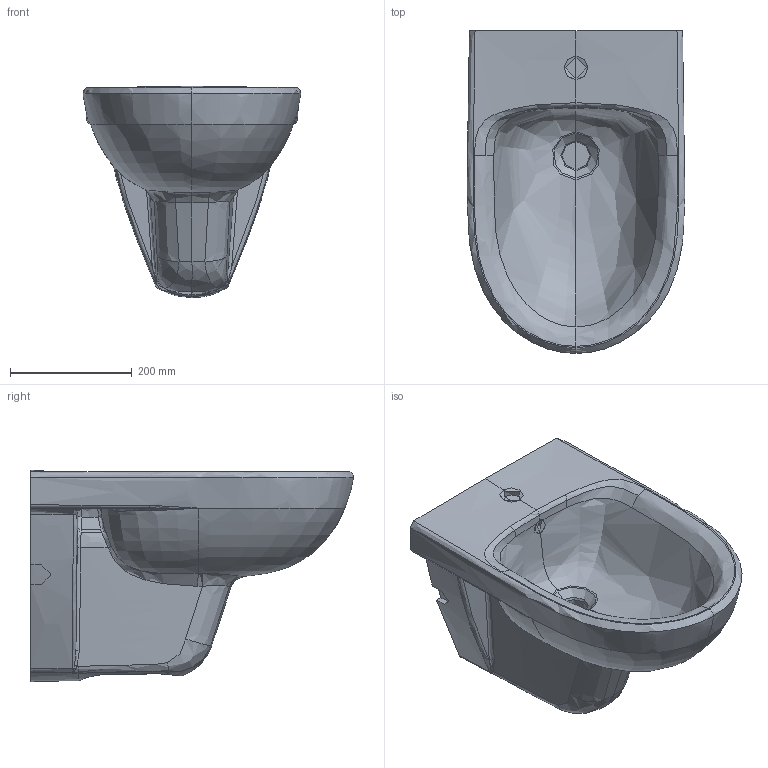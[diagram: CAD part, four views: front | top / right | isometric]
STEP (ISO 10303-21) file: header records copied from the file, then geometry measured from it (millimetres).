
FILE_DESCRIPTION(/* description */ (''),/* implementation_level */ '2;1');
FILE_NAME(/* name */ 'C:\Planerdaten\Export PLA\500.264.01.1\stp\500264.stp',/* time_stamp */ '2020-05-27T08:24:32+02:00',/* author */ ('JANAN'),/* organization */ (''),/* preprocessor_version */ 'ST-DEVELOPER v16.13',/* originating_system */ 'Autodesk Inventor 2018',/* authorisation */ '');
FILE_SCHEMA (('AUTOMOTIVE_DESIGN { 1 0 10303 214 3 1 1 }'));
Products named in the file (1): WBI Ge+Snv T53 m/ÜLF
Bounding box: 357.53 x 530 x 347 mm (x, y, z)
Volume: 19640973.9 mm3; surface area: 756431.6 mm2
Topology: 1 solids, 1 shells, 225 faces, 583 edges, 362 vertices
Faces by surface type: bspline 172, plane 31, cylinder 14, sphere 4, cone 4
Full cylindrical faces by diameter (mm): 20 x5, 22 x1, 35 x1, 46 x1
Entity records: 37736 total; most frequent: CARTESIAN_POINT 33266, ORIENTED_EDGE 1136, EDGE_CURVE 568, DIRECTION 508, VERTEX_POINT 357, B_SPLINE_CURVE_WITH_KNOTS 305, EDGE_LOOP 237, STYLED_ITEM 226
